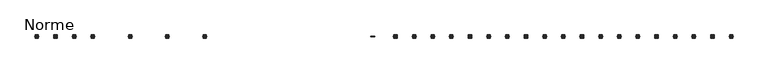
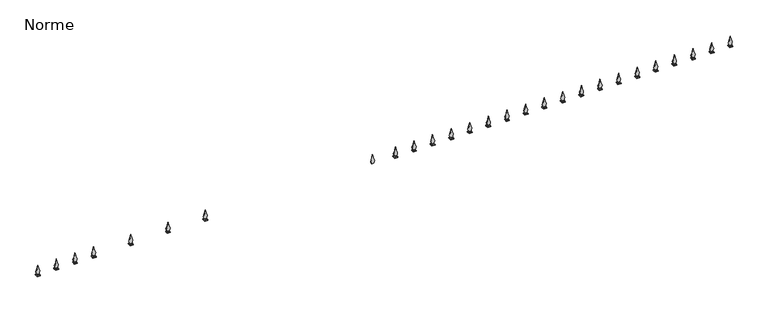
"""IFC4 building model written with IfcOpenShell, lengths in millimetres: geographic element geometry, Portail métal - Double : Norme."""

from ifc_helpers import new_model, si_unit, point, frame, frame_2d, origin, place, context, project, spatial, polyline, circle_curve, trimmed, segment, composite_curve, outline, extrude, faceted_brep, source, transform, mapped, element, save


def norme_d9aae464(model_context):
    return source(origin(), model_context, "Body", "SolidModel", [
        extrude(outline(composite_curve([segment(trimmed(circle_curve(frame_2d((2474.9252719, 2525.310722)), 87.884948), [point((2510.0, 2605.8931489))], [point((2490.0, 2611.8931489))], True, "CARTESIAN"), True, "CONTINUOUS"), segment(polyline([(2490.0, 2611.8931489), (2490.0, 2629.8931489)]), True, "CONTINUOUS"), segment(trimmed(circle_curve(frame_2d((2474.9252719, 2716.4755759)), 87.884948), [point((2490.0, 2629.8931489))], [point((2510.0, 2635.8931489))], True, "CARTESIAN"), True, "CONTINUOUS"), segment(trimmed(circle_curve(frame_2d((2584.2044665, 2792.4080374)), 173.2143562), [point((2510.0, 2635.8931489))], [point((2560.0, 2620.8931489))], True, "CARTESIAN"), True, "CONTINUOUS"), segment(trimmed(circle_curve(frame_2d((2584.2044665, 2449.3782604)), 173.2143562), [point((2560.0, 2620.8931489))], [point((2510.0, 2605.8931489))], True, "CARTESIAN"), True, "CONTINUOUS")], self_intersect=False)), frame((0.0, -1.5, 0.0), z_axis=(0.0, 1.0, 0.0), x_axis=(0.0, 0.0, 1.0)), (0.0, 0.0, 1.0), 3.0),
        faceted_brep([(2611.8931489, 9.0, 2490.0), (2611.8931489, -9.0, 2490.0), (2629.8931489, -9.0, 2490.0), (2629.8931489, 9.0, 2490.0), (2608.8931489, 12.0, 2485.0), (2632.8931489, 12.0, 2485.0), (2632.8931489, -12.0, 2485.0), (2608.8931489, -12.0, 2485.0)], [[[0, 1, 2, 3]], [[4, 5, 6, 7]], [[4, 7, 1, 0]], [[7, 6, 2, 1]], [[6, 5, 3, 2]], [[5, 4, 0, 3]]]),
        extrude(outline(polyline([(2632.8931489, 12.0), (2632.8931489, -12.0), (2608.8931489, -12.0), (2608.8931489, 12.0), (2632.8931489, 12.0)])), frame((0.0, 0.0, 2480.0), z_axis=(0.0, 0.0, 1.0), x_axis=(1.0, 0.0, 0.0)), (0.0, 0.0, 1.0), 5.0),
        extrude(outline(composite_curve([segment(trimmed(circle_curve(frame_2d((2474.9252719, 2382.6718331)), 87.884948), [point((2510.0, 2463.25426))], [point((2490.0, 2469.25426))], True, "CARTESIAN"), True, "CONTINUOUS"), segment(polyline([(2490.0, 2469.25426), (2490.0, 2487.25426)]), True, "CONTINUOUS"), segment(trimmed(circle_curve(frame_2d((2474.9252719, 2573.836687)), 87.884948), [point((2490.0, 2487.25426))], [point((2510.0, 2493.25426))], True, "CARTESIAN"), True, "CONTINUOUS"), segment(trimmed(circle_curve(frame_2d((2584.2044665, 2649.7691485)), 173.2143562), [point((2510.0, 2493.25426))], [point((2560.0, 2478.25426))], True, "CARTESIAN"), True, "CONTINUOUS"), segment(trimmed(circle_curve(frame_2d((2584.2044665, 2306.7393716)), 173.2143562), [point((2560.0, 2478.25426))], [point((2510.0, 2463.25426))], True, "CARTESIAN"), True, "CONTINUOUS")], self_intersect=False)), frame((0.0, -1.5, 0.0), z_axis=(0.0, 1.0, 0.0), x_axis=(0.0, 0.0, 1.0)), (0.0, 0.0, 1.0), 3.0),
        faceted_brep([(2469.25426, 9.0, 2490.0), (2469.25426, -9.0, 2490.0), (2487.25426, -9.0, 2490.0), (2487.25426, 9.0, 2490.0), (2466.25426, 12.0, 2485.0), (2490.25426, 12.0, 2485.0), (2490.25426, -12.0, 2485.0), (2466.25426, -12.0, 2485.0)], [[[0, 1, 2, 3]], [[4, 5, 6, 7]], [[4, 7, 1, 0]], [[7, 6, 2, 1]], [[6, 5, 3, 2]], [[5, 4, 0, 3]]]),
        extrude(outline(polyline([(2490.25426, 12.0), (2490.25426, -12.0), (2466.25426, -12.0), (2466.25426, 12.0), (2490.25426, 12.0)])), frame((0.0, 0.0, 2480.0), z_axis=(0.0, 0.0, 1.0), x_axis=(1.0, 0.0, 0.0)), (0.0, 0.0, 1.0), 5.0),
        extrude(outline(composite_curve([segment(trimmed(circle_curve(frame_2d((2474.9252719, 2240.0329442)), 87.884948), [point((2510.0, 2320.6153712))], [point((2490.0, 2326.6153712))], True, "CARTESIAN"), True, "CONTINUOUS"), segment(polyline([(2490.0, 2326.6153712), (2490.0, 2344.6153712)]), True, "CONTINUOUS"), segment(trimmed(circle_curve(frame_2d((2474.9252719, 2431.1977981)), 87.884948), [point((2490.0, 2344.6153712))], [point((2510.0, 2350.6153712))], True, "CARTESIAN"), True, "CONTINUOUS"), segment(trimmed(circle_curve(frame_2d((2584.2044665, 2507.1302597)), 173.2143562), [point((2510.0, 2350.6153712))], [point((2560.0, 2335.6153712))], True, "CARTESIAN"), True, "CONTINUOUS"), segment(trimmed(circle_curve(frame_2d((2584.2044665, 2164.1004827)), 173.2143562), [point((2560.0, 2335.6153712))], [point((2510.0, 2320.6153712))], True, "CARTESIAN"), True, "CONTINUOUS")], self_intersect=False)), frame((0.0, -1.5, 0.0), z_axis=(0.0, 1.0, 0.0), x_axis=(0.0, 0.0, 1.0)), (0.0, 0.0, 1.0), 3.0),
        faceted_brep([(2326.6153712, 9.0, 2490.0), (2326.6153712, -9.0, 2490.0), (2344.6153712, -9.0, 2490.0), (2344.6153712, 9.0, 2490.0), (2323.6153712, 12.0, 2485.0), (2347.6153712, 12.0, 2485.0), (2347.6153712, -12.0, 2485.0), (2323.6153712, -12.0, 2485.0)], [[[0, 1, 2, 3]], [[4, 5, 6, 7]], [[4, 7, 1, 0]], [[7, 6, 2, 1]], [[6, 5, 3, 2]], [[5, 4, 0, 3]]]),
        extrude(outline(polyline([(2347.6153712, 12.0), (2347.6153712, -12.0), (2323.6153712, -12.0), (2323.6153712, 12.0), (2347.6153712, 12.0)])), frame((0.0, 0.0, 2480.0), z_axis=(0.0, 0.0, 1.0), x_axis=(1.0, 0.0, 0.0)), (0.0, 0.0, 1.0), 5.0),
        extrude(outline(composite_curve([segment(trimmed(circle_curve(frame_2d((2474.9252719, 2097.3940554)), 87.884948), [point((2510.0, 2177.9764823))], [point((2490.0, 2183.9764823))], True, "CARTESIAN"), True, "CONTINUOUS"), segment(polyline([(2490.0, 2183.9764823), (2490.0, 2201.9764823)]), True, "CONTINUOUS"), segment(trimmed(circle_curve(frame_2d((2474.9252719, 2288.5589092)), 87.884948), [point((2490.0, 2201.9764823))], [point((2510.0, 2207.9764823))], True, "CARTESIAN"), True, "CONTINUOUS"), segment(trimmed(circle_curve(frame_2d((2584.2044665, 2364.4913708)), 173.2143562), [point((2510.0, 2207.9764823))], [point((2560.0, 2192.9764823))], True, "CARTESIAN"), True, "CONTINUOUS"), segment(trimmed(circle_curve(frame_2d((2584.2044665, 2021.4615938)), 173.2143562), [point((2560.0, 2192.9764823))], [point((2510.0, 2177.9764823))], True, "CARTESIAN"), True, "CONTINUOUS")], self_intersect=False)), frame((0.0, -1.5, 0.0), z_axis=(0.0, 1.0, 0.0), x_axis=(0.0, 0.0, 1.0)), (0.0, 0.0, 1.0), 3.0),
        faceted_brep([(2183.9764823, 9.0, 2490.0), (2183.9764823, -9.0, 2490.0), (2201.9764823, -9.0, 2490.0), (2201.9764823, 9.0, 2490.0), (2180.9764823, 12.0, 2485.0), (2204.9764823, 12.0, 2485.0), (2204.9764823, -12.0, 2485.0), (2180.9764823, -12.0, 2485.0)], [[[0, 1, 2, 3]], [[4, 5, 6, 7]], [[4, 7, 1, 0]], [[7, 6, 2, 1]], [[6, 5, 3, 2]], [[5, 4, 0, 3]]]),
        extrude(outline(polyline([(2204.9764823, 12.0), (2204.9764823, -12.0), (2180.9764823, -12.0), (2180.9764823, 12.0), (2204.9764823, 12.0)])), frame((0.0, 0.0, 2480.0), z_axis=(0.0, 0.0, 1.0), x_axis=(1.0, 0.0, 0.0)), (0.0, 0.0, 1.0), 5.0),
        extrude(outline(composite_curve([segment(trimmed(circle_curve(frame_2d((2474.9252719, 1954.7551665)), 87.884948), [point((2510.0, 2035.3375934))], [point((2490.0, 2041.3375934))], True, "CARTESIAN"), True, "CONTINUOUS"), segment(polyline([(2490.0, 2041.3375934), (2490.0, 2059.3375934)]), True, "CONTINUOUS"), segment(trimmed(circle_curve(frame_2d((2474.9252719, 2145.9200203)), 87.884948), [point((2490.0, 2059.3375934))], [point((2510.0, 2065.3375934))], True, "CARTESIAN"), True, "CONTINUOUS"), segment(trimmed(circle_curve(frame_2d((2584.2044665, 2221.8524819)), 173.2143562), [point((2510.0, 2065.3375934))], [point((2560.0, 2050.3375934))], True, "CARTESIAN"), True, "CONTINUOUS"), segment(trimmed(circle_curve(frame_2d((2584.2044665, 1878.8227049)), 173.2143562), [point((2560.0, 2050.3375934))], [point((2510.0, 2035.3375934))], True, "CARTESIAN"), True, "CONTINUOUS")], self_intersect=False)), frame((0.0, -1.5, 0.0), z_axis=(0.0, 1.0, 0.0), x_axis=(0.0, 0.0, 1.0)), (0.0, 0.0, 1.0), 3.0),
        faceted_brep([(2041.3375934, 9.0, 2490.0), (2041.3375934, -9.0, 2490.0), (2059.3375934, -9.0, 2490.0), (2059.3375934, 9.0, 2490.0), (2038.3375934, 12.0, 2485.0), (2062.3375934, 12.0, 2485.0), (2062.3375934, -12.0, 2485.0), (2038.3375934, -12.0, 2485.0)], [[[0, 1, 2, 3]], [[4, 5, 6, 7]], [[4, 7, 1, 0]], [[7, 6, 2, 1]], [[6, 5, 3, 2]], [[5, 4, 0, 3]]]),
        extrude(outline(polyline([(2062.3375934, 12.0), (2062.3375934, -12.0), (2038.3375934, -12.0), (2038.3375934, 12.0), (2062.3375934, 12.0)])), frame((0.0, 0.0, 2480.0), z_axis=(0.0, 0.0, 1.0), x_axis=(1.0, 0.0, 0.0)), (0.0, 0.0, 1.0), 5.0),
        extrude(outline(composite_curve([segment(trimmed(circle_curve(frame_2d((2474.9252719, 1812.1162776)), 87.884948), [point((2510.0, 1892.6987045))], [point((2490.0, 1898.6987045))], True, "CARTESIAN"), True, "CONTINUOUS"), segment(polyline([(2490.0, 1898.6987045), (2490.0, 1916.6987045)]), True, "CONTINUOUS"), segment(trimmed(circle_curve(frame_2d((2474.9252719, 2003.2811314)), 87.884948), [point((2490.0, 1916.6987045))], [point((2510.0, 1922.6987045))], True, "CARTESIAN"), True, "CONTINUOUS"), segment(trimmed(circle_curve(frame_2d((2584.2044665, 2079.213593)), 173.2143562), [point((2510.0, 1922.6987045))], [point((2560.0, 1907.6987045))], True, "CARTESIAN"), True, "CONTINUOUS"), segment(trimmed(circle_curve(frame_2d((2584.2044665, 1736.183816)), 173.2143562), [point((2560.0, 1907.6987045))], [point((2510.0, 1892.6987045))], True, "CARTESIAN"), True, "CONTINUOUS")], self_intersect=False)), frame((0.0, -1.5, 0.0), z_axis=(0.0, 1.0, 0.0), x_axis=(0.0, 0.0, 1.0)), (0.0, 0.0, 1.0), 3.0),
        faceted_brep([(1898.6987045, 9.0, 2490.0), (1898.6987045, -9.0, 2490.0), (1916.6987045, -9.0, 2490.0), (1916.6987045, 9.0, 2490.0), (1895.6987045, 12.0, 2485.0), (1919.6987045, 12.0, 2485.0), (1919.6987045, -12.0, 2485.0), (1895.6987045, -12.0, 2485.0)], [[[0, 1, 2, 3]], [[4, 5, 6, 7]], [[4, 7, 1, 0]], [[7, 6, 2, 1]], [[6, 5, 3, 2]], [[5, 4, 0, 3]]]),
        extrude(outline(polyline([(1919.6987045, 12.0), (1919.6987045, -12.0), (1895.6987045, -12.0), (1895.6987045, 12.0), (1919.6987045, 12.0)])), frame((0.0, 0.0, 2480.0), z_axis=(0.0, 0.0, 1.0), x_axis=(1.0, 0.0, 0.0)), (0.0, 0.0, 1.0), 5.0),
        extrude(outline(composite_curve([segment(trimmed(circle_curve(frame_2d((2474.9252719, 1669.4773887)), 87.884948), [point((2510.0, 1750.0598156))], [point((2490.0, 1756.0598156))], True, "CARTESIAN"), True, "CONTINUOUS"), segment(polyline([(2490.0, 1756.0598156), (2490.0, 1774.0598156)]), True, "CONTINUOUS"), segment(trimmed(circle_curve(frame_2d((2474.9252719, 1860.6422425)), 87.884948), [point((2490.0, 1774.0598156))], [point((2510.0, 1780.0598156))], True, "CARTESIAN"), True, "CONTINUOUS"), segment(trimmed(circle_curve(frame_2d((2584.2044665, 1936.5747041)), 173.2143562), [point((2510.0, 1780.0598156))], [point((2560.0, 1765.0598156))], True, "CARTESIAN"), True, "CONTINUOUS"), segment(trimmed(circle_curve(frame_2d((2584.2044665, 1593.5449271)), 173.2143562), [point((2560.0, 1765.0598156))], [point((2510.0, 1750.0598156))], True, "CARTESIAN"), True, "CONTINUOUS")], self_intersect=False)), frame((0.0, -1.5, 0.0), z_axis=(0.0, 1.0, 0.0), x_axis=(0.0, 0.0, 1.0)), (0.0, 0.0, 1.0), 3.0),
        faceted_brep([(1756.0598156, 9.0, 2490.0), (1756.0598156, -9.0, 2490.0), (1774.0598156, -9.0, 2490.0), (1774.0598156, 9.0, 2490.0), (1753.0598156, 12.0, 2485.0), (1777.0598156, 12.0, 2485.0), (1777.0598156, -12.0, 2485.0), (1753.0598156, -12.0, 2485.0)], [[[0, 1, 2, 3]], [[4, 5, 6, 7]], [[4, 7, 1, 0]], [[7, 6, 2, 1]], [[6, 5, 3, 2]], [[5, 4, 0, 3]]]),
        extrude(outline(polyline([(1777.0598156, 12.0), (1777.0598156, -12.0), (1753.0598156, -12.0), (1753.0598156, 12.0), (1777.0598156, 12.0)])), frame((0.0, 0.0, 2480.0), z_axis=(0.0, 0.0, 1.0), x_axis=(1.0, 0.0, 0.0)), (0.0, 0.0, 1.0), 5.0),
        extrude(outline(composite_curve([segment(trimmed(circle_curve(frame_2d((2474.9252719, 1526.8384998)), 87.884948), [point((2510.0, 1607.4209267))], [point((2490.0, 1613.4209267))], True, "CARTESIAN"), True, "CONTINUOUS"), segment(polyline([(2490.0, 1613.4209267), (2490.0, 1631.4209267)]), True, "CONTINUOUS"), segment(trimmed(circle_curve(frame_2d((2474.9252719, 1718.0033536)), 87.884948), [point((2490.0, 1631.4209267))], [point((2510.0, 1637.4209267))], True, "CARTESIAN"), True, "CONTINUOUS"), segment(trimmed(circle_curve(frame_2d((2584.2044665, 1793.9358152)), 173.2143562), [point((2510.0, 1637.4209267))], [point((2560.0, 1622.4209267))], True, "CARTESIAN"), True, "CONTINUOUS"), segment(trimmed(circle_curve(frame_2d((2584.2044665, 1450.9060382)), 173.2143562), [point((2560.0, 1622.4209267))], [point((2510.0, 1607.4209267))], True, "CARTESIAN"), True, "CONTINUOUS")], self_intersect=False)), frame((0.0, -1.5, 0.0), z_axis=(0.0, 1.0, 0.0), x_axis=(0.0, 0.0, 1.0)), (0.0, 0.0, 1.0), 3.0),
        faceted_brep([(1613.4209267, 9.0, 2490.0), (1613.4209267, -9.0, 2490.0), (1631.4209267, -9.0, 2490.0), (1631.4209267, 9.0, 2490.0), (1610.4209267, 12.0, 2485.0), (1634.4209267, 12.0, 2485.0), (1634.4209267, -12.0, 2485.0), (1610.4209267, -12.0, 2485.0)], [[[0, 1, 2, 3]], [[4, 5, 6, 7]], [[4, 7, 1, 0]], [[7, 6, 2, 1]], [[6, 5, 3, 2]], [[5, 4, 0, 3]]]),
        extrude(outline(polyline([(1634.4209267, 12.0), (1634.4209267, -12.0), (1610.4209267, -12.0), (1610.4209267, 12.0), (1634.4209267, 12.0)])), frame((0.0, 0.0, 2480.0), z_axis=(0.0, 0.0, 1.0), x_axis=(1.0, 0.0, 0.0)), (0.0, 0.0, 1.0), 5.0),
        extrude(outline(composite_curve([segment(trimmed(circle_curve(frame_2d((2474.9252719, 1384.1996109)), 87.884948), [point((2510.0, 1464.7820378))], [point((2490.0, 1470.7820378))], True, "CARTESIAN"), True, "CONTINUOUS"), segment(polyline([(2490.0, 1470.7820378), (2490.0, 1488.7820378)]), True, "CONTINUOUS"), segment(trimmed(circle_curve(frame_2d((2474.9252719, 1575.3644648)), 87.884948), [point((2490.0, 1488.7820378))], [point((2510.0, 1494.7820378))], True, "CARTESIAN"), True, "CONTINUOUS"), segment(trimmed(circle_curve(frame_2d((2584.2044665, 1651.2969263)), 173.2143562), [point((2510.0, 1494.7820378))], [point((2560.0, 1479.7820378))], True, "CARTESIAN"), True, "CONTINUOUS"), segment(trimmed(circle_curve(frame_2d((2584.2044665, 1308.2671493)), 173.2143562), [point((2560.0, 1479.7820378))], [point((2510.0, 1464.7820378))], True, "CARTESIAN"), True, "CONTINUOUS")], self_intersect=False)), frame((0.0, -1.5, 0.0), z_axis=(0.0, 1.0, 0.0), x_axis=(0.0, 0.0, 1.0)), (0.0, 0.0, 1.0), 3.0),
        faceted_brep([(1470.7820378, 9.0, 2490.0), (1470.7820378, -9.0, 2490.0), (1488.7820378, -9.0, 2490.0), (1488.7820378, 9.0, 2490.0), (1467.7820378, 12.0, 2485.0), (1491.7820378, 12.0, 2485.0), (1491.7820378, -12.0, 2485.0), (1467.7820378, -12.0, 2485.0)], [[[0, 1, 2, 3]], [[4, 5, 6, 7]], [[4, 7, 1, 0]], [[7, 6, 2, 1]], [[6, 5, 3, 2]], [[5, 4, 0, 3]]]),
        extrude(outline(polyline([(1491.7820378, 12.0), (1491.7820378, -12.0), (1467.7820378, -12.0), (1467.7820378, 12.0), (1491.7820378, 12.0)])), frame((0.0, 0.0, 2480.0), z_axis=(0.0, 0.0, 1.0), x_axis=(1.0, 0.0, 0.0)), (0.0, 0.0, 1.0), 5.0),
        extrude(outline(composite_curve([segment(trimmed(circle_curve(frame_2d((2474.9252719, 1241.560722)), 87.884948), [point((2510.0, 1322.1431489))], [point((2490.0, 1328.1431489))], True, "CARTESIAN"), True, "CONTINUOUS"), segment(polyline([(2490.0, 1328.1431489), (2490.0, 1346.1431489)]), True, "CONTINUOUS"), segment(trimmed(circle_curve(frame_2d((2474.9252719, 1432.7255759)), 87.884948), [point((2490.0, 1346.1431489))], [point((2510.0, 1352.1431489))], True, "CARTESIAN"), True, "CONTINUOUS"), segment(trimmed(circle_curve(frame_2d((2584.2044665, 1508.6580374)), 173.2143562), [point((2510.0, 1352.1431489))], [point((2560.0, 1337.1431489))], True, "CARTESIAN"), True, "CONTINUOUS"), segment(trimmed(circle_curve(frame_2d((2584.2044665, 1165.6282604)), 173.2143562), [point((2560.0, 1337.1431489))], [point((2510.0, 1322.1431489))], True, "CARTESIAN"), True, "CONTINUOUS")], self_intersect=False)), frame((0.0, -1.5, 0.0), z_axis=(0.0, 1.0, 0.0), x_axis=(0.0, 0.0, 1.0)), (0.0, 0.0, 1.0), 3.0),
        faceted_brep([(1328.1431489, 9.0, 2490.0), (1328.1431489, -9.0, 2490.0), (1346.1431489, -9.0, 2490.0), (1346.1431489, 9.0, 2490.0), (1325.1431489, 12.0, 2485.0), (1349.1431489, 12.0, 2485.0), (1349.1431489, -12.0, 2485.0), (1325.1431489, -12.0, 2485.0)], [[[0, 1, 2, 3]], [[4, 5, 6, 7]], [[4, 7, 1, 0]], [[7, 6, 2, 1]], [[6, 5, 3, 2]], [[5, 4, 0, 3]]]),
        extrude(outline(polyline([(1349.1431489, 12.0), (1349.1431489, -12.0), (1325.1431489, -12.0), (1325.1431489, 12.0), (1349.1431489, 12.0)])), frame((0.0, 0.0, 2480.0), z_axis=(0.0, 0.0, 1.0), x_axis=(1.0, 0.0, 0.0)), (0.0, 0.0, 1.0), 5.0),
        extrude(outline(composite_curve([segment(trimmed(circle_curve(frame_2d((2474.9252719, 1098.9218331)), 87.884948), [point((2510.0, 1179.50426))], [point((2490.0, 1185.50426))], True, "CARTESIAN"), True, "CONTINUOUS"), segment(polyline([(2490.0, 1185.50426), (2490.0, 1203.50426)]), True, "CONTINUOUS"), segment(trimmed(circle_curve(frame_2d((2474.9252719, 1290.086687)), 87.884948), [point((2490.0, 1203.50426))], [point((2510.0, 1209.50426))], True, "CARTESIAN"), True, "CONTINUOUS"), segment(trimmed(circle_curve(frame_2d((2584.2044665, 1366.0191485)), 173.2143562), [point((2510.0, 1209.50426))], [point((2560.0, 1194.50426))], True, "CARTESIAN"), True, "CONTINUOUS"), segment(trimmed(circle_curve(frame_2d((2584.2044665, 1022.9893716)), 173.2143562), [point((2560.0, 1194.50426))], [point((2510.0, 1179.50426))], True, "CARTESIAN"), True, "CONTINUOUS")], self_intersect=False)), frame((0.0, -1.5, 0.0), z_axis=(0.0, 1.0, 0.0), x_axis=(0.0, 0.0, 1.0)), (0.0, 0.0, 1.0), 3.0),
        faceted_brep([(1185.50426, 9.0, 2490.0), (1185.50426, -9.0, 2490.0), (1203.50426, -9.0, 2490.0), (1203.50426, 9.0, 2490.0), (1182.50426, 12.0, 2485.0), (1206.50426, 12.0, 2485.0), (1206.50426, -12.0, 2485.0), (1182.50426, -12.0, 2485.0)], [[[0, 1, 2, 3]], [[4, 5, 6, 7]], [[4, 7, 1, 0]], [[7, 6, 2, 1]], [[6, 5, 3, 2]], [[5, 4, 0, 3]]]),
        extrude(outline(polyline([(1206.50426, 12.0), (1206.50426, -12.0), (1182.50426, -12.0), (1182.50426, 12.0), (1206.50426, 12.0)])), frame((0.0, 0.0, 2480.0), z_axis=(0.0, 0.0, 1.0), x_axis=(1.0, 0.0, 0.0)), (0.0, 0.0, 1.0), 5.0),
        extrude(outline(composite_curve([segment(trimmed(circle_curve(frame_2d((2474.9252719, 956.2829442)), 87.884948), [point((2510.0, 1036.8653712))], [point((2490.0, 1042.8653712))], True, "CARTESIAN"), True, "CONTINUOUS"), segment(polyline([(2490.0, 1042.8653712), (2490.0, 1060.8653712)]), True, "CONTINUOUS"), segment(trimmed(circle_curve(frame_2d((2474.9252719, 1147.4477981)), 87.884948), [point((2490.0, 1060.8653712))], [point((2510.0, 1066.8653712))], True, "CARTESIAN"), True, "CONTINUOUS"), segment(trimmed(circle_curve(frame_2d((2584.2044665, 1223.3802597)), 173.2143562), [point((2510.0, 1066.8653712))], [point((2560.0, 1051.8653712))], True, "CARTESIAN"), True, "CONTINUOUS"), segment(trimmed(circle_curve(frame_2d((2584.2044665, 880.3504827)), 173.2143562), [point((2560.0, 1051.8653712))], [point((2510.0, 1036.8653712))], True, "CARTESIAN"), True, "CONTINUOUS")], self_intersect=False)), frame((0.0, -1.5, 0.0), z_axis=(0.0, 1.0, 0.0), x_axis=(0.0, 0.0, 1.0)), (0.0, 0.0, 1.0), 3.0),
        faceted_brep([(1042.8653712, 9.0, 2490.0), (1042.8653712, -9.0, 2490.0), (1060.8653712, -9.0, 2490.0), (1060.8653712, 9.0, 2490.0), (1039.8653712, 12.0, 2485.0), (1063.8653712, 12.0, 2485.0), (1063.8653712, -12.0, 2485.0), (1039.8653712, -12.0, 2485.0)], [[[0, 1, 2, 3]], [[4, 5, 6, 7]], [[4, 7, 1, 0]], [[7, 6, 2, 1]], [[6, 5, 3, 2]], [[5, 4, 0, 3]]]),
        extrude(outline(polyline([(1063.8653712, 12.0), (1063.8653712, -12.0), (1039.8653712, -12.0), (1039.8653712, 12.0), (1063.8653712, 12.0)])), frame((0.0, 0.0, 2480.0), z_axis=(0.0, 0.0, 1.0), x_axis=(1.0, 0.0, 0.0)), (0.0, 0.0, 1.0), 5.0),
        extrude(outline(composite_curve([segment(trimmed(circle_curve(frame_2d((2474.9252719, 813.6440554)), 87.884948), [point((2510.0, 894.2264823))], [point((2490.0, 900.2264823))], True, "CARTESIAN"), True, "CONTINUOUS"), segment(polyline([(2490.0, 900.2264823), (2490.0, 918.2264823)]), True, "CONTINUOUS"), segment(trimmed(circle_curve(frame_2d((2474.9252719, 1004.8089092)), 87.884948), [point((2490.0, 918.2264823))], [point((2510.0, 924.2264823))], True, "CARTESIAN"), True, "CONTINUOUS"), segment(trimmed(circle_curve(frame_2d((2584.2044665, 1080.7413708)), 173.2143562), [point((2510.0, 924.2264823))], [point((2560.0, 909.2264823))], True, "CARTESIAN"), True, "CONTINUOUS"), segment(trimmed(circle_curve(frame_2d((2584.2044665, 737.7115938)), 173.2143562), [point((2560.0, 909.2264823))], [point((2510.0, 894.2264823))], True, "CARTESIAN"), True, "CONTINUOUS")], self_intersect=False)), frame((0.0, -1.5, 0.0), z_axis=(0.0, 1.0, 0.0), x_axis=(0.0, 0.0, 1.0)), (0.0, 0.0, 1.0), 3.0),
        faceted_brep([(900.2264823, 9.0, 2490.0), (900.2264823, -9.0, 2490.0), (918.2264823, -9.0, 2490.0), (918.2264823, 9.0, 2490.0), (897.2264823, 12.0, 2485.0), (921.2264823, 12.0, 2485.0), (921.2264823, -12.0, 2485.0), (897.2264823, -12.0, 2485.0)], [[[0, 1, 2, 3]], [[4, 5, 6, 7]], [[4, 7, 1, 0]], [[7, 6, 2, 1]], [[6, 5, 3, 2]], [[5, 4, 0, 3]]]),
        extrude(outline(polyline([(921.2264823, 12.0), (921.2264823, -12.0), (897.2264823, -12.0), (897.2264823, 12.0), (921.2264823, 12.0)])), frame((0.0, 0.0, 2480.0), z_axis=(0.0, 0.0, 1.0), x_axis=(1.0, 0.0, 0.0)), (0.0, 0.0, 1.0), 5.0),
        extrude(outline(composite_curve([segment(trimmed(circle_curve(frame_2d((2474.9252719, 671.0051665)), 87.884948), [point((2510.0, 751.5875934))], [point((2490.0, 757.5875934))], True, "CARTESIAN"), True, "CONTINUOUS"), segment(polyline([(2490.0, 757.5875934), (2490.0, 775.5875934)]), True, "CONTINUOUS"), segment(trimmed(circle_curve(frame_2d((2474.9252719, 862.1700203)), 87.884948), [point((2490.0, 775.5875934))], [point((2510.0, 781.5875934))], True, "CARTESIAN"), True, "CONTINUOUS"), segment(trimmed(circle_curve(frame_2d((2584.2044665, 938.1024819)), 173.2143562), [point((2510.0, 781.5875934))], [point((2560.0, 766.5875934))], True, "CARTESIAN"), True, "CONTINUOUS"), segment(trimmed(circle_curve(frame_2d((2584.2044665, 595.0727049)), 173.2143562), [point((2560.0, 766.5875934))], [point((2510.0, 751.5875934))], True, "CARTESIAN"), True, "CONTINUOUS")], self_intersect=False)), frame((0.0, -1.5, 0.0), z_axis=(0.0, 1.0, 0.0), x_axis=(0.0, 0.0, 1.0)), (0.0, 0.0, 1.0), 3.0),
        faceted_brep([(757.5875934, 9.0, 2490.0), (757.5875934, -9.0, 2490.0), (775.5875934, -9.0, 2490.0), (775.5875934, 9.0, 2490.0), (754.5875934, 12.0, 2485.0), (778.5875934, 12.0, 2485.0), (778.5875934, -12.0, 2485.0), (754.5875934, -12.0, 2485.0)], [[[0, 1, 2, 3]], [[4, 5, 6, 7]], [[4, 7, 1, 0]], [[7, 6, 2, 1]], [[6, 5, 3, 2]], [[5, 4, 0, 3]]]),
        extrude(outline(polyline([(778.5875934, 12.0), (778.5875934, -12.0), (754.5875934, -12.0), (754.5875934, 12.0), (778.5875934, 12.0)])), frame((0.0, 0.0, 2480.0), z_axis=(0.0, 0.0, 1.0), x_axis=(1.0, 0.0, 0.0)), (0.0, 0.0, 1.0), 5.0),
        extrude(outline(composite_curve([segment(trimmed(circle_curve(frame_2d((2474.9252719, 528.3662776)), 87.884948), [point((2510.0, 608.9487045))], [point((2490.0, 614.9487045))], True, "CARTESIAN"), True, "CONTINUOUS"), segment(polyline([(2490.0, 614.9487045), (2490.0, 632.9487045)]), True, "CONTINUOUS"), segment(trimmed(circle_curve(frame_2d((2474.9252719, 719.5311314)), 87.884948), [point((2490.0, 632.9487045))], [point((2510.0, 638.9487045))], True, "CARTESIAN"), True, "CONTINUOUS"), segment(trimmed(circle_curve(frame_2d((2584.2044665, 795.463593)), 173.2143562), [point((2510.0, 638.9487045))], [point((2560.0, 623.9487045))], True, "CARTESIAN"), True, "CONTINUOUS"), segment(trimmed(circle_curve(frame_2d((2584.2044665, 452.433816)), 173.2143562), [point((2560.0, 623.9487045))], [point((2510.0, 608.9487045))], True, "CARTESIAN"), True, "CONTINUOUS")], self_intersect=False)), frame((0.0, -1.5, 0.0), z_axis=(0.0, 1.0, 0.0), x_axis=(0.0, 0.0, 1.0)), (0.0, 0.0, 1.0), 3.0),
        faceted_brep([(614.9487045, 9.0, 2490.0), (614.9487045, -9.0, 2490.0), (632.9487045, -9.0, 2490.0), (632.9487045, 9.0, 2490.0), (611.9487045, 12.0, 2485.0), (635.9487045, 12.0, 2485.0), (635.9487045, -12.0, 2485.0), (611.9487045, -12.0, 2485.0)], [[[0, 1, 2, 3]], [[4, 5, 6, 7]], [[4, 7, 1, 0]], [[7, 6, 2, 1]], [[6, 5, 3, 2]], [[5, 4, 0, 3]]]),
        extrude(outline(polyline([(635.9487045, 12.0), (635.9487045, -12.0), (611.9487045, -12.0), (611.9487045, 12.0), (635.9487045, 12.0)])), frame((0.0, 0.0, 2480.0), z_axis=(0.0, 0.0, 1.0), x_axis=(1.0, 0.0, 0.0)), (0.0, 0.0, 1.0), 5.0),
        extrude(outline(composite_curve([segment(trimmed(circle_curve(frame_2d((2474.9252719, 385.7273887)), 87.884948), [point((2510.0, 466.3098156))], [point((2490.0, 472.3098156))], True, "CARTESIAN"), True, "CONTINUOUS"), segment(polyline([(2490.0, 472.3098156), (2490.0, 490.3098156)]), True, "CONTINUOUS"), segment(trimmed(circle_curve(frame_2d((2474.9252719, 576.8922425)), 87.884948), [point((2490.0, 490.3098156))], [point((2510.0, 496.3098156))], True, "CARTESIAN"), True, "CONTINUOUS"), segment(trimmed(circle_curve(frame_2d((2584.2044665, 652.8247041)), 173.2143562), [point((2510.0, 496.3098156))], [point((2560.0, 481.3098156))], True, "CARTESIAN"), True, "CONTINUOUS"), segment(trimmed(circle_curve(frame_2d((2584.2044665, 309.7949271)), 173.2143562), [point((2560.0, 481.3098156))], [point((2510.0, 466.3098156))], True, "CARTESIAN"), True, "CONTINUOUS")], self_intersect=False)), frame((0.0, -1.5, 0.0), z_axis=(0.0, 1.0, 0.0), x_axis=(0.0, 0.0, 1.0)), (0.0, 0.0, 1.0), 3.0),
        faceted_brep([(472.3098156, 9.0, 2490.0), (472.3098156, -9.0, 2490.0), (490.3098156, -9.0, 2490.0), (490.3098156, 9.0, 2490.0), (469.3098156, 12.0, 2485.0), (493.3098156, 12.0, 2485.0), (493.3098156, -12.0, 2485.0), (469.3098156, -12.0, 2485.0)], [[[0, 1, 2, 3]], [[4, 5, 6, 7]], [[4, 7, 1, 0]], [[7, 6, 2, 1]], [[6, 5, 3, 2]], [[5, 4, 0, 3]]]),
        extrude(outline(polyline([(493.3098156, 12.0), (493.3098156, -12.0), (469.3098156, -12.0), (469.3098156, 12.0), (493.3098156, 12.0)])), frame((0.0, 0.0, 2480.0), z_axis=(0.0, 0.0, 1.0), x_axis=(1.0, 0.0, 0.0)), (0.0, 0.0, 1.0), 5.0),
        extrude(outline(composite_curve([segment(trimmed(circle_curve(frame_2d((2474.9252719, 243.0884998)), 87.884948), [point((2510.0, 323.6709267))], [point((2490.0, 329.6709267))], True, "CARTESIAN"), True, "CONTINUOUS"), segment(polyline([(2490.0, 329.6709267), (2490.0, 347.6709267)]), True, "CONTINUOUS"), segment(trimmed(circle_curve(frame_2d((2474.9252719, 434.2533536)), 87.884948), [point((2490.0, 347.6709267))], [point((2510.0, 353.6709267))], True, "CARTESIAN"), True, "CONTINUOUS"), segment(trimmed(circle_curve(frame_2d((2584.2044665, 510.1858152)), 173.2143562), [point((2510.0, 353.6709267))], [point((2560.0, 338.6709267))], True, "CARTESIAN"), True, "CONTINUOUS"), segment(trimmed(circle_curve(frame_2d((2584.2044665, 167.1560382)), 173.2143562), [point((2560.0, 338.6709267))], [point((2510.0, 323.6709267))], True, "CARTESIAN"), True, "CONTINUOUS")], self_intersect=False)), frame((0.0, -1.5, 0.0), z_axis=(0.0, 1.0, 0.0), x_axis=(0.0, 0.0, 1.0)), (0.0, 0.0, 1.0), 3.0),
        faceted_brep([(329.6709267, 9.0, 2490.0), (329.6709267, -9.0, 2490.0), (347.6709267, -9.0, 2490.0), (347.6709267, 9.0, 2490.0), (326.6709267, 12.0, 2485.0), (350.6709267, 12.0, 2485.0), (350.6709267, -12.0, 2485.0), (326.6709267, -12.0, 2485.0)], [[[0, 1, 2, 3]], [[4, 5, 6, 7]], [[4, 7, 1, 0]], [[7, 6, 2, 1]], [[6, 5, 3, 2]], [[5, 4, 0, 3]]]),
        extrude(outline(polyline([(350.6709267, 12.0), (350.6709267, -12.0), (326.6709267, -12.0), (326.6709267, 12.0), (350.6709267, 12.0)])), frame((0.0, 0.0, 2480.0), z_axis=(0.0, 0.0, 1.0), x_axis=(1.0, 0.0, 0.0)), (0.0, 0.0, 1.0), 5.0),
        extrude(outline(composite_curve([segment(trimmed(circle_curve(frame_2d((2474.9252719, 100.4496109)), 87.884948), [point((2510.0, 181.0320378))], [point((2490.0, 187.0320378))], True, "CARTESIAN"), True, "CONTINUOUS"), segment(polyline([(2490.0, 187.0320378), (2490.0, 205.0320378)]), True, "CONTINUOUS"), segment(trimmed(circle_curve(frame_2d((2474.9252719, 291.6144648)), 87.884948), [point((2490.0, 205.0320378))], [point((2510.0, 211.0320378))], True, "CARTESIAN"), True, "CONTINUOUS"), segment(trimmed(circle_curve(frame_2d((2584.2044665, 367.5469263)), 173.2143562), [point((2510.0, 211.0320378))], [point((2560.0, 196.0320378))], True, "CARTESIAN"), True, "CONTINUOUS"), segment(trimmed(circle_curve(frame_2d((2584.2044665, 24.5171493)), 173.2143562), [point((2560.0, 196.0320378))], [point((2510.0, 181.0320378))], True, "CARTESIAN"), True, "CONTINUOUS")], self_intersect=False)), frame((0.0, -1.5, 0.0), z_axis=(0.0, 1.0, 0.0), x_axis=(0.0, 0.0, 1.0)), (0.0, 0.0, 1.0), 3.0),
        faceted_brep([(187.0320378, 9.0, 2490.0), (187.0320378, -9.0, 2490.0), (205.0320378, -9.0, 2490.0), (205.0320378, 9.0, 2490.0), (184.0320378, 12.0, 2485.0), (208.0320378, 12.0, 2485.0), (208.0320378, -12.0, 2485.0), (184.0320378, -12.0, 2485.0)], [[[0, 1, 2, 3]], [[4, 5, 6, 7]], [[4, 7, 1, 0]], [[7, 6, 2, 1]], [[6, 5, 3, 2]], [[5, 4, 0, 3]]]),
        extrude(outline(polyline([(208.0320378, 12.0), (208.0320378, -12.0), (184.0320378, -12.0), (184.0320378, 12.0), (208.0320378, 12.0)])), frame((0.0, 0.0, 2480.0), z_axis=(0.0, 0.0, 1.0), x_axis=(1.0, 0.0, 0.0)), (0.0, 0.0, 1.0), 5.0),
        extrude(outline(composite_curve([segment(trimmed(circle_curve(frame_2d((2474.9252719, -42.189278)), 87.884948), [point((2510.0, 38.3931489))], [point((2490.0, 44.3931489))], True, "CARTESIAN"), True, "CONTINUOUS"), segment(polyline([(2490.0, 44.3931489), (2490.0, 62.3931489)]), True, "CONTINUOUS"), segment(trimmed(circle_curve(frame_2d((2474.9252719, 148.9755759)), 87.884948), [point((2490.0, 62.3931489))], [point((2510.0, 68.3931489))], True, "CARTESIAN"), True, "CONTINUOUS"), segment(trimmed(circle_curve(frame_2d((2584.2044665, 224.9080374)), 173.2143562), [point((2510.0, 68.3931489))], [point((2560.0, 53.3931489))], True, "CARTESIAN"), True, "CONTINUOUS"), segment(trimmed(circle_curve(frame_2d((2584.2044665, -118.1217396)), 173.2143562), [point((2560.0, 53.3931489))], [point((2510.0, 38.3931489))], True, "CARTESIAN"), True, "CONTINUOUS")], self_intersect=False)), frame((0.0, -1.5, 0.0), z_axis=(0.0, 1.0, 0.0), x_axis=(0.0, 0.0, 1.0)), (0.0, 0.0, 1.0), 3.0),
        faceted_brep([(44.3931489, 9.0, 2490.0), (44.3931489, -9.0, 2490.0), (62.3931489, -9.0, 2490.0), (62.3931489, 9.0, 2490.0), (41.3931489, 12.0, 2485.0), (65.3931489, 12.0, 2485.0), (65.3931489, -12.0, 2485.0), (41.3931489, -12.0, 2485.0)], [[[0, 1, 2, 3]], [[4, 5, 6, 7]], [[4, 7, 1, 0]], [[7, 6, 2, 1]], [[6, 5, 3, 2]], [[5, 4, 0, 3]]]),
        extrude(outline(polyline([(65.3931489, 12.0), (65.3931489, -12.0), (41.3931489, -12.0), (41.3931489, 12.0), (65.3931489, 12.0)])), frame((0.0, 0.0, 2480.0), z_axis=(0.0, 0.0, 1.0), x_axis=(1.0, 0.0, 0.0)), (0.0, 0.0, 1.0), 5.0),
        extrude(outline(composite_curve([segment(trimmed(circle_curve(frame_2d((2474.9252719, -2784.689278)), 87.884948), [point((2510.0, -2704.1068511))], [point((2490.0, -2698.1068511))], True, "CARTESIAN"), True, "CONTINUOUS"), segment(polyline([(2490.0, -2698.1068511), (2490.0, -2680.1068511)]), True, "CONTINUOUS"), segment(trimmed(circle_curve(frame_2d((2474.9252719, -2593.5244241)), 87.884948), [point((2490.0, -2680.1068511))], [point((2510.0, -2674.1068511))], True, "CARTESIAN"), True, "CONTINUOUS"), segment(trimmed(circle_curve(frame_2d((2584.2044665, -2517.5919626)), 173.2143562), [point((2510.0, -2674.1068511))], [point((2560.0, -2689.1068511))], True, "CARTESIAN"), True, "CONTINUOUS"), segment(trimmed(circle_curve(frame_2d((2584.2044665, -2860.6217396)), 173.2143562), [point((2560.0, -2689.1068511))], [point((2510.0, -2704.1068511))], True, "CARTESIAN"), True, "CONTINUOUS")], self_intersect=False)), frame((0.0, -1.5, 0.0), z_axis=(0.0, 1.0, 0.0), x_axis=(0.0, 0.0, 1.0)), (0.0, 0.0, 1.0), 3.0),
        faceted_brep([(-2698.1068511, 9.0, 2490.0), (-2698.1068511, -9.0, 2490.0), (-2680.1068511, -9.0, 2490.0), (-2680.1068511, 9.0, 2490.0), (-2701.1068511, 12.0, 2485.0), (-2677.1068511, 12.0, 2485.0), (-2677.1068511, -12.0, 2485.0), (-2701.1068511, -12.0, 2485.0)], [[[0, 1, 2, 3]], [[4, 5, 6, 7]], [[4, 7, 1, 0]], [[7, 6, 2, 1]], [[6, 5, 3, 2]], [[5, 4, 0, 3]]]),
        extrude(outline(polyline([(-2677.1068511, 12.0), (-2677.1068511, -12.0), (-2701.1068511, -12.0), (-2701.1068511, 12.0), (-2677.1068511, 12.0)])), frame((0.0, 0.0, 2480.0), z_axis=(0.0, 0.0, 1.0), x_axis=(1.0, 0.0, 0.0)), (0.0, 0.0, 1.0), 5.0),
        extrude(outline(composite_curve([segment(trimmed(circle_curve(frame_2d((2474.9252719, -2642.0503891)), 87.884948), [point((2510.0, -2561.4679622))], [point((2490.0, -2555.4679622))], True, "CARTESIAN"), True, "CONTINUOUS"), segment(polyline([(2490.0, -2555.4679622), (2490.0, -2537.4679622)]), True, "CONTINUOUS"), segment(trimmed(circle_curve(frame_2d((2474.9252719, -2450.8855352)), 87.884948), [point((2490.0, -2537.4679622))], [point((2510.0, -2531.4679622))], True, "CARTESIAN"), True, "CONTINUOUS"), segment(trimmed(circle_curve(frame_2d((2584.2044665, -2374.9530737)), 173.2143562), [point((2510.0, -2531.4679622))], [point((2560.0, -2546.4679622))], True, "CARTESIAN"), True, "CONTINUOUS"), segment(trimmed(circle_curve(frame_2d((2584.2044665, -2717.9828507)), 173.2143562), [point((2560.0, -2546.4679622))], [point((2510.0, -2561.4679622))], True, "CARTESIAN"), True, "CONTINUOUS")], self_intersect=False)), frame((0.0, -1.5, 0.0), z_axis=(0.0, 1.0, 0.0), x_axis=(0.0, 0.0, 1.0)), (0.0, 0.0, 1.0), 3.0),
        faceted_brep([(-2555.4679622, 9.0, 2490.0), (-2555.4679622, -9.0, 2490.0), (-2537.4679622, -9.0, 2490.0), (-2537.4679622, 9.0, 2490.0), (-2558.4679622, 12.0, 2485.0), (-2534.4679622, 12.0, 2485.0), (-2534.4679622, -12.0, 2485.0), (-2558.4679622, -12.0, 2485.0)], [[[0, 1, 2, 3]], [[4, 5, 6, 7]], [[4, 7, 1, 0]], [[7, 6, 2, 1]], [[6, 5, 3, 2]], [[5, 4, 0, 3]]]),
        extrude(outline(polyline([(-2534.4679622, 12.0), (-2534.4679622, -12.0), (-2558.4679622, -12.0), (-2558.4679622, 12.0), (-2534.4679622, 12.0)])), frame((0.0, 0.0, 2480.0), z_axis=(0.0, 0.0, 1.0), x_axis=(1.0, 0.0, 0.0)), (0.0, 0.0, 1.0), 5.0),
        extrude(outline(composite_curve([segment(trimmed(circle_curve(frame_2d((2474.9252719, -2499.4115002)), 87.884948), [point((2510.0, -2418.8290733))], [point((2490.0, -2412.8290733))], True, "CARTESIAN"), True, "CONTINUOUS"), segment(polyline([(2490.0, -2412.8290733), (2490.0, -2394.8290733)]), True, "CONTINUOUS"), segment(trimmed(circle_curve(frame_2d((2474.9252719, -2308.2466464)), 87.884948), [point((2490.0, -2394.8290733))], [point((2510.0, -2388.8290733))], True, "CARTESIAN"), True, "CONTINUOUS"), segment(trimmed(circle_curve(frame_2d((2584.2044665, -2232.3141848)), 173.2143562), [point((2510.0, -2388.8290733))], [point((2560.0, -2403.8290733))], True, "CARTESIAN"), True, "CONTINUOUS"), segment(trimmed(circle_curve(frame_2d((2584.2044665, -2575.3439618)), 173.2143562), [point((2560.0, -2403.8290733))], [point((2510.0, -2418.8290733))], True, "CARTESIAN"), True, "CONTINUOUS")], self_intersect=False)), frame((0.0, -1.5, 0.0), z_axis=(0.0, 1.0, 0.0), x_axis=(0.0, 0.0, 1.0)), (0.0, 0.0, 1.0), 3.0),
        faceted_brep([(-2412.8290733, 9.0, 2490.0), (-2412.8290733, -9.0, 2490.0), (-2394.8290733, -9.0, 2490.0), (-2394.8290733, 9.0, 2490.0), (-2415.8290733, 12.0, 2485.0), (-2391.8290733, 12.0, 2485.0), (-2391.8290733, -12.0, 2485.0), (-2415.8290733, -12.0, 2485.0)], [[[0, 1, 2, 3]], [[4, 5, 6, 7]], [[4, 7, 1, 0]], [[7, 6, 2, 1]], [[6, 5, 3, 2]], [[5, 4, 0, 3]]]),
        extrude(outline(polyline([(-2391.8290733, 12.0), (-2391.8290733, -12.0), (-2415.8290733, -12.0), (-2415.8290733, 12.0), (-2391.8290733, 12.0)])), frame((0.0, 0.0, 2480.0), z_axis=(0.0, 0.0, 1.0), x_axis=(1.0, 0.0, 0.0)), (0.0, 0.0, 1.0), 5.0),
        extrude(outline(composite_curve([segment(trimmed(circle_curve(frame_2d((2474.9252719, -2356.7726113)), 87.884948), [point((2510.0, -2276.1901844))], [point((2490.0, -2270.1901844))], True, "CARTESIAN"), True, "CONTINUOUS"), segment(polyline([(2490.0, -2270.1901844), (2490.0, -2252.1901844)]), True, "CONTINUOUS"), segment(trimmed(circle_curve(frame_2d((2474.9252719, -2165.6077575)), 87.884948), [point((2490.0, -2252.1901844))], [point((2510.0, -2246.1901844))], True, "CARTESIAN"), True, "CONTINUOUS"), segment(trimmed(circle_curve(frame_2d((2584.2044665, -2089.6752959)), 173.2143562), [point((2510.0, -2246.1901844))], [point((2560.0, -2261.1901844))], True, "CARTESIAN"), True, "CONTINUOUS"), segment(trimmed(circle_curve(frame_2d((2584.2044665, -2432.7050729)), 173.2143562), [point((2560.0, -2261.1901844))], [point((2510.0, -2276.1901844))], True, "CARTESIAN"), True, "CONTINUOUS")], self_intersect=False)), frame((0.0, -1.5, 0.0), z_axis=(0.0, 1.0, 0.0), x_axis=(0.0, 0.0, 1.0)), (0.0, 0.0, 1.0), 3.0),
        faceted_brep([(-2270.1901844, 9.0, 2490.0), (-2270.1901844, -9.0, 2490.0), (-2252.1901844, -9.0, 2490.0), (-2252.1901844, 9.0, 2490.0), (-2273.1901844, 12.0, 2485.0), (-2249.1901844, 12.0, 2485.0), (-2249.1901844, -12.0, 2485.0), (-2273.1901844, -12.0, 2485.0)], [[[0, 1, 2, 3]], [[4, 5, 6, 7]], [[4, 7, 1, 0]], [[7, 6, 2, 1]], [[6, 5, 3, 2]], [[5, 4, 0, 3]]]),
        extrude(outline(polyline([(-2249.1901844, 12.0), (-2249.1901844, -12.0), (-2273.1901844, -12.0), (-2273.1901844, 12.0), (-2249.1901844, 12.0)])), frame((0.0, 0.0, 2480.0), z_axis=(0.0, 0.0, 1.0), x_axis=(1.0, 0.0, 0.0)), (0.0, 0.0, 1.0), 5.0),
        extrude(outline(composite_curve([segment(trimmed(circle_curve(frame_2d((2474.9252719, -1500.939278)), 87.884948), [point((2510.0, -1420.3568511))], [point((2490.0, -1414.3568511))], True, "CARTESIAN"), True, "CONTINUOUS"), segment(polyline([(2490.0, -1414.3568511), (2490.0, -1396.3568511)]), True, "CONTINUOUS"), segment(trimmed(circle_curve(frame_2d((2474.9252719, -1309.7744241)), 87.884948), [point((2490.0, -1396.3568511))], [point((2510.0, -1390.3568511))], True, "CARTESIAN"), True, "CONTINUOUS"), segment(trimmed(circle_curve(frame_2d((2584.2044665, -1233.8419626)), 173.2143562), [point((2510.0, -1390.3568511))], [point((2560.0, -1405.3568511))], True, "CARTESIAN"), True, "CONTINUOUS"), segment(trimmed(circle_curve(frame_2d((2584.2044665, -1576.8717396)), 173.2143562), [point((2560.0, -1405.3568511))], [point((2510.0, -1420.3568511))], True, "CARTESIAN"), True, "CONTINUOUS")], self_intersect=False)), frame((0.0, -1.5, 0.0), z_axis=(0.0, 1.0, 0.0), x_axis=(0.0, 0.0, 1.0)), (0.0, 0.0, 1.0), 3.0),
        faceted_brep([(-1414.3568511, 9.0, 2490.0), (-1414.3568511, -9.0, 2490.0), (-1396.3568511, -9.0, 2490.0), (-1396.3568511, 9.0, 2490.0), (-1417.3568511, 12.0, 2485.0), (-1393.3568511, 12.0, 2485.0), (-1393.3568511, -12.0, 2485.0), (-1417.3568511, -12.0, 2485.0)], [[[0, 1, 2, 3]], [[4, 5, 6, 7]], [[4, 7, 1, 0]], [[7, 6, 2, 1]], [[6, 5, 3, 2]], [[5, 4, 0, 3]]]),
        extrude(outline(polyline([(-1393.3568511, 12.0), (-1393.3568511, -12.0), (-1417.3568511, -12.0), (-1417.3568511, 12.0), (-1393.3568511, 12.0)])), frame((0.0, 0.0, 2480.0), z_axis=(0.0, 0.0, 1.0), x_axis=(1.0, 0.0, 0.0)), (0.0, 0.0, 1.0), 5.0),
        extrude(outline(composite_curve([segment(trimmed(circle_curve(frame_2d((2474.9252719, -1786.2170558)), 87.884948), [point((2510.0, -1705.6346288))], [point((2490.0, -1699.6346288))], True, "CARTESIAN"), True, "CONTINUOUS"), segment(polyline([(2490.0, -1699.6346288), (2490.0, -1681.6346288)]), True, "CONTINUOUS"), segment(trimmed(circle_curve(frame_2d((2474.9252719, -1595.0522019)), 87.884948), [point((2490.0, -1681.6346288))], [point((2510.0, -1675.6346288))], True, "CARTESIAN"), True, "CONTINUOUS"), segment(trimmed(circle_curve(frame_2d((2584.2044665, -1519.1197403)), 173.2143562), [point((2510.0, -1675.6346288))], [point((2560.0, -1690.6346288))], True, "CARTESIAN"), True, "CONTINUOUS"), segment(trimmed(circle_curve(frame_2d((2584.2044665, -1862.1495173)), 173.2143562), [point((2560.0, -1690.6346288))], [point((2510.0, -1705.6346288))], True, "CARTESIAN"), True, "CONTINUOUS")], self_intersect=False)), frame((0.0, -1.5, 0.0), z_axis=(0.0, 1.0, 0.0), x_axis=(0.0, 0.0, 1.0)), (0.0, 0.0, 1.0), 3.0),
        faceted_brep([(-1699.6346288, 9.0, 2490.0), (-1699.6346288, -9.0, 2490.0), (-1681.6346288, -9.0, 2490.0), (-1681.6346288, 9.0, 2490.0), (-1702.6346288, 12.0, 2485.0), (-1678.6346288, 12.0, 2485.0), (-1678.6346288, -12.0, 2485.0), (-1702.6346288, -12.0, 2485.0)], [[[0, 1, 2, 3]], [[4, 5, 6, 7]], [[4, 7, 1, 0]], [[7, 6, 2, 1]], [[6, 5, 3, 2]], [[5, 4, 0, 3]]]),
        extrude(outline(polyline([(-1678.6346288, 12.0), (-1678.6346288, -12.0), (-1702.6346288, -12.0), (-1702.6346288, 12.0), (-1678.6346288, 12.0)])), frame((0.0, 0.0, 2480.0), z_axis=(0.0, 0.0, 1.0), x_axis=(1.0, 0.0, 0.0)), (0.0, 0.0, 1.0), 5.0),
        extrude(outline(composite_curve([segment(trimmed(circle_curve(frame_2d((2474.9252719, -2071.4948335)), 87.884948), [point((2510.0, -1990.9124066))], [point((2490.0, -1984.9124066))], True, "CARTESIAN"), True, "CONTINUOUS"), segment(polyline([(2490.0, -1984.9124066), (2490.0, -1966.9124066)]), True, "CONTINUOUS"), segment(trimmed(circle_curve(frame_2d((2474.9252719, -1880.3299797)), 87.884948), [point((2490.0, -1966.9124066))], [point((2510.0, -1960.9124066))], True, "CARTESIAN"), True, "CONTINUOUS"), segment(trimmed(circle_curve(frame_2d((2584.2044665, -1804.3975181)), 173.2143562), [point((2510.0, -1960.9124066))], [point((2560.0, -1975.9124066))], True, "CARTESIAN"), True, "CONTINUOUS"), segment(trimmed(circle_curve(frame_2d((2584.2044665, -2147.4272951)), 173.2143562), [point((2560.0, -1975.9124066))], [point((2510.0, -1990.9124066))], True, "CARTESIAN"), True, "CONTINUOUS")], self_intersect=False)), frame((0.0, -1.5, 0.0), z_axis=(0.0, 1.0, 0.0), x_axis=(0.0, 0.0, 1.0)), (0.0, 0.0, 1.0), 3.0),
        faceted_brep([(-1984.9124066, 9.0, 2490.0), (-1984.9124066, -9.0, 2490.0), (-1966.9124066, -9.0, 2490.0), (-1966.9124066, 9.0, 2490.0), (-1987.9124066, 12.0, 2485.0), (-1963.9124066, 12.0, 2485.0), (-1963.9124066, -12.0, 2485.0), (-1987.9124066, -12.0, 2485.0)], [[[0, 1, 2, 3]], [[4, 5, 6, 7]], [[4, 7, 1, 0]], [[7, 6, 2, 1]], [[6, 5, 3, 2]], [[5, 4, 0, 3]]]),
        extrude(outline(polyline([(-1963.9124066, 12.0), (-1963.9124066, -12.0), (-1987.9124066, -12.0), (-1987.9124066, 12.0), (-1963.9124066, 12.0)])), frame((0.0, 0.0, 2480.0), z_axis=(0.0, 0.0, 1.0), x_axis=(1.0, 0.0, 0.0)), (0.0, 0.0, 1.0), 5.0),
        extrude(outline(composite_curve([segment(trimmed(circle_curve(frame_2d((2474.9252719, -217.189278)), 87.884948), [point((2510.0, -136.6068511))], [point((2490.0, -130.6068511))], True, "CARTESIAN"), True, "CONTINUOUS"), segment(polyline([(2490.0, -130.6068511), (2490.0, -112.6068511)]), True, "CONTINUOUS"), segment(trimmed(circle_curve(frame_2d((2474.9252719, -26.0244241)), 87.884948), [point((2490.0, -112.6068511))], [point((2510.0, -106.6068511))], True, "CARTESIAN"), True, "CONTINUOUS"), segment(trimmed(circle_curve(frame_2d((2584.2044665, 49.9080374)), 173.2143562), [point((2510.0, -106.6068511))], [point((2560.0, -121.6068511))], True, "CARTESIAN"), True, "CONTINUOUS"), segment(trimmed(circle_curve(frame_2d((2584.2044665, -293.1217396)), 173.2143562), [point((2560.0, -121.6068511))], [point((2510.0, -136.6068511))], True, "CARTESIAN"), True, "CONTINUOUS")], self_intersect=False)), frame((0.0, -1.5, 0.0), z_axis=(0.0, 1.0, 0.0), x_axis=(0.0, 0.0, 1.0)), (0.0, 0.0, 1.0), 3.0),
    ])


if __name__ == "__main__":
    model = new_model("IFC4")
    model_context = context("Model", 3, world=origin())
    ifc_project = project(units=[si_unit("LENGTHUNIT", "METRE", prefix="MILLI")], contexts=[model_context])
    site = spatial("IfcSite", under=ifc_project)
    building = spatial("IfcBuilding", under=site)
    placement = place(None, origin())
    norme_shape = norme_d9aae464(model_context)
    element("IfcGeographicElement", 1, ObjectType="Portail métal - Double : Norme", at=placement, inside=building, context=model_context, shape_type="MappedRepresentation", body=[
        mapped(norme_shape, transform((0.0, 0.0, 0.0), x_axis=(1.0, 0.0, 0.0), y_axis=(0.0, 1.0, 0.0), z_axis=(0.0, 0.0, 1.0))),
    ])
    save(model, "model.ifc")
